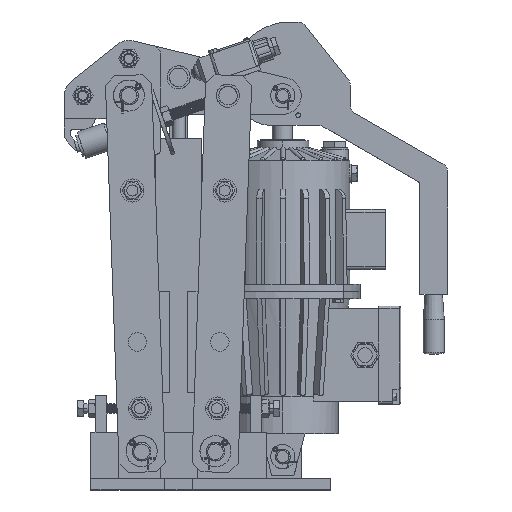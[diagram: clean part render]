
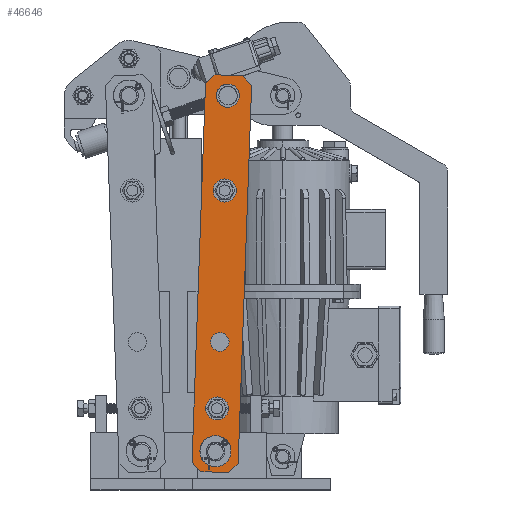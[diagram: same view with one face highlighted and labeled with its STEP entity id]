
A CAD part, top view. The second image highlights one B-rep face of the part: STEP entity #46646.
In plain terms, the highlighted planar face has unit normal (0, 0, 1).
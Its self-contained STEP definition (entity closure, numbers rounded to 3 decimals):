
#43397=DIRECTION('',(-0.732,-0.681,0.));
#43398=VECTOR('',#43397,14.142);
#43399=CARTESIAN_POINT('',(539.817,1093.504,74.));
#43400=LINE('',#43399,#43398);
#43404=DIRECTION('',(-0.999,0.036,0.));
#43405=VECTOR('',#43404,30.);
#43406=CARTESIAN_POINT('',(569.798,1092.435,74.));
#43407=LINE('',#43406,#43405);
#43411=DIRECTION('',(-0.681,0.732,0.));
#43412=VECTOR('',#43411,14.142);
#43413=CARTESIAN_POINT('',(579.435,1082.086,74.));
#43414=LINE('',#43413,#43412);
#43418=DIRECTION('',(0.036,0.999,0.));
#43419=VECTOR('',#43418,410.245);
#43420=CARTESIAN_POINT('',(564.824,672.101,74.));
#43421=LINE('',#43420,#43419);
#43425=DIRECTION('',(0.732,0.681,0.));
#43426=VECTOR('',#43425,14.142);
#43427=CARTESIAN_POINT('',(554.475,662.463,74.));
#43428=LINE('',#43427,#43426);
#43432=DIRECTION('',(0.999,-0.036,0.));
#43433=VECTOR('',#43432,30.);
#43434=CARTESIAN_POINT('',(524.494,663.532,74.));
#43435=LINE('',#43434,#43433);
#43439=DIRECTION('',(0.681,-0.732,0.));
#43440=VECTOR('',#43439,14.142);
#43441=CARTESIAN_POINT('',(514.856,673.882,74.));
#43442=LINE('',#43441,#43440);
#43446=DIRECTION('',(-0.036,-0.999,0.));
#43447=VECTOR('',#43446,410.245);
#43448=CARTESIAN_POINT('',(529.467,1083.866,74.));
#43449=LINE('',#43448,#43447);
#43453=CARTESIAN_POINT('',(553.765,1070.892,74.));
#43454=DIRECTION('',(0.,0.,-1.));
#43455=DIRECTION('',(1.,0.,0.));
#43456=AXIS2_PLACEMENT_3D('',#43453,#43454,#43455);
#43461=CARTESIAN_POINT('',(553.765,1070.892,74.));
#43462=DIRECTION('',(0.,0.,-1.));
#43463=DIRECTION('',(-1.,0.,0.));
#43464=AXIS2_PLACEMENT_3D('',#43461,#43462,#43463);
#43469=CARTESIAN_POINT('',(540.268,684.984,74.));
#43470=DIRECTION('',(0.,0.,-1.));
#43471=DIRECTION('',(0.999,0.042,0.));
#43472=AXIS2_PLACEMENT_3D('',#43469,#43470,#43471);
#43477=CARTESIAN_POINT('',(540.268,684.984,74.));
#43478=DIRECTION('',(0.,0.,-1.));
#43479=DIRECTION('',(-0.999,-0.042,0.));
#43480=AXIS2_PLACEMENT_3D('',#43477,#43478,#43479);
#43485=CARTESIAN_POINT('',(541.942,731.954,74.));
#43486=DIRECTION('',(0.,0.,-1.));
#43487=DIRECTION('',(1.,0.,0.));
#43488=AXIS2_PLACEMENT_3D('',#43485,#43486,#43487);
#43493=CARTESIAN_POINT('',(541.942,731.954,74.));
#43494=DIRECTION('',(0.,0.,-1.));
#43495=DIRECTION('',(-1.,0.,0.));
#43496=AXIS2_PLACEMENT_3D('',#43493,#43494,#43495);
#43501=CARTESIAN_POINT('',(545.013,803.984,74.));
#43502=DIRECTION('',(0.,0.,-1.));
#43503=DIRECTION('',(1.,0.,0.));
#43504=AXIS2_PLACEMENT_3D('',#43501,#43502,#43503);
#43509=CARTESIAN_POINT('',(545.013,803.984,74.));
#43510=DIRECTION('',(0.,0.,-1.));
#43511=DIRECTION('',(-1.,0.,0.));
#43512=AXIS2_PLACEMENT_3D('',#43509,#43510,#43511);
#43517=CARTESIAN_POINT('',(550.358,968.116,74.));
#43518=DIRECTION('',(0.,0.,-1.));
#43519=DIRECTION('',(1.,0.,0.));
#43520=AXIS2_PLACEMENT_3D('',#43517,#43518,#43519);
#43525=CARTESIAN_POINT('',(550.358,968.116,74.));
#43526=DIRECTION('',(0.,0.,-1.));
#43527=DIRECTION('',(-1.,0.,0.));
#43528=AXIS2_PLACEMENT_3D('',#43525,#43526,#43527);
#45708=CARTESIAN_POINT('',(579.435,1082.086,74.));
#45709=CARTESIAN_POINT('',(569.798,1092.435,74.));
#45710=VERTEX_POINT('',#45708);
#45711=VERTEX_POINT('',#45709);
#45712=CARTESIAN_POINT('',(539.817,1093.504,74.));
#45713=CARTESIAN_POINT('',(529.467,1083.866,74.));
#45714=VERTEX_POINT('',#45712);
#45715=VERTEX_POINT('',#45713);
#45716=CARTESIAN_POINT('',(514.856,673.882,74.));
#45717=VERTEX_POINT('',#45716);
#45718=CARTESIAN_POINT('',(524.494,663.532,74.));
#45719=VERTEX_POINT('',#45718);
#45720=CARTESIAN_POINT('',(554.475,662.463,74.));
#45721=VERTEX_POINT('',#45720);
#45722=CARTESIAN_POINT('',(564.824,672.101,74.));
#45723=VERTEX_POINT('',#45722);
#45724=CARTESIAN_POINT('',(566.265,1070.892,74.));
#45725=CARTESIAN_POINT('',(541.265,1070.892,74.));
#45726=VERTEX_POINT('',#45724);
#45727=VERTEX_POINT('',#45725);
#45728=CARTESIAN_POINT('',(552.757,685.507,74.));
#45729=CARTESIAN_POINT('',(527.779,684.46,74.));
#45730=VERTEX_POINT('',#45728);
#45731=VERTEX_POINT('',#45729);
#45732=CARTESIAN_POINT('',(554.442,731.954,74.));
#45733=CARTESIAN_POINT('',(529.442,731.954,74.));
#45734=VERTEX_POINT('',#45732);
#45735=VERTEX_POINT('',#45733);
#45736=CARTESIAN_POINT('',(555.013,803.984,74.));
#45737=CARTESIAN_POINT('',(535.013,803.984,74.));
#45738=VERTEX_POINT('',#45736);
#45739=VERTEX_POINT('',#45737);
#45740=CARTESIAN_POINT('',(562.858,968.116,74.));
#45741=CARTESIAN_POINT('',(537.858,968.116,74.));
#45742=VERTEX_POINT('',#45740);
#45743=VERTEX_POINT('',#45741);
#46594=CARTESIAN_POINT('',(547.146,877.984,74.));
#46595=DIRECTION('',(0.,0.,1.));
#46596=DIRECTION('',(-1.,0.,0.));
#46597=AXIS2_PLACEMENT_3D('',#46594,#46595,#46596);
#46598=PLANE('',#46597);
#46600=ORIENTED_EDGE('',*,*,#46599,.F.);
#46602=ORIENTED_EDGE('',*,*,#46601,.F.);
#46603=ORIENTED_EDGE('',*,*,#46584,.F.);
#46605=ORIENTED_EDGE('',*,*,#46604,.F.);
#46607=ORIENTED_EDGE('',*,*,#46606,.F.);
#46609=ORIENTED_EDGE('',*,*,#46608,.F.);
#46611=ORIENTED_EDGE('',*,*,#46610,.F.);
#46613=ORIENTED_EDGE('',*,*,#46612,.F.);
#46614=EDGE_LOOP('',(#46600,#46602,#46603,#46605,#46607,#46609,#46611,#46613));
#46615=FACE_OUTER_BOUND('',#46614,.F.);
#46617=ORIENTED_EDGE('',*,*,#46616,.F.);
#46619=ORIENTED_EDGE('',*,*,#46618,.F.);
#46620=EDGE_LOOP('',(#46617,#46619));
#46621=FACE_BOUND('',#46620,.F.);
#46623=ORIENTED_EDGE('',*,*,#46622,.F.);
#46625=ORIENTED_EDGE('',*,*,#46624,.F.);
#46626=EDGE_LOOP('',(#46623,#46625));
#46627=FACE_BOUND('',#46626,.F.);
#46629=ORIENTED_EDGE('',*,*,#46628,.F.);
#46631=ORIENTED_EDGE('',*,*,#46630,.F.);
#46632=EDGE_LOOP('',(#46629,#46631));
#46633=FACE_BOUND('',#46632,.F.);
#46635=ORIENTED_EDGE('',*,*,#46634,.F.);
#46637=ORIENTED_EDGE('',*,*,#46636,.F.);
#46638=EDGE_LOOP('',(#46635,#46637));
#46639=FACE_BOUND('',#46638,.F.);
#46641=ORIENTED_EDGE('',*,*,#46640,.F.);
#46643=ORIENTED_EDGE('',*,*,#46642,.F.);
#46644=EDGE_LOOP('',(#46641,#46643));
#46645=FACE_BOUND('',#46644,.F.);
#46646=ADVANCED_FACE('',(#46615,#46621,#46627,#46633,#46639,#46645),#46598,.T.);
#43457=CIRCLE('',#43456,12.5);
#43465=CIRCLE('',#43464,12.5);
#43473=CIRCLE('',#43472,12.5);
#43481=CIRCLE('',#43480,12.5);
#43489=CIRCLE('',#43488,12.5);
#43497=CIRCLE('',#43496,12.5);
#43505=CIRCLE('',#43504,10.);
#43513=CIRCLE('',#43512,10.);
#43521=CIRCLE('',#43520,12.5);
#43529=CIRCLE('',#43528,12.5);
#46584=EDGE_CURVE('',#45710,#45711,#43414,.T.);
#46599=EDGE_CURVE('',#45714,#45715,#43400,.T.);
#46601=EDGE_CURVE('',#45711,#45714,#43407,.T.);
#46604=EDGE_CURVE('',#45723,#45710,#43421,.T.);
#46606=EDGE_CURVE('',#45721,#45723,#43428,.T.);
#46608=EDGE_CURVE('',#45719,#45721,#43435,.T.);
#46610=EDGE_CURVE('',#45717,#45719,#43442,.T.);
#46612=EDGE_CURVE('',#45715,#45717,#43449,.T.);
#46616=EDGE_CURVE('',#45726,#45727,#43457,.T.);
#46618=EDGE_CURVE('',#45727,#45726,#43465,.T.);
#46622=EDGE_CURVE('',#45730,#45731,#43473,.T.);
#46624=EDGE_CURVE('',#45731,#45730,#43481,.T.);
#46628=EDGE_CURVE('',#45734,#45735,#43489,.T.);
#46630=EDGE_CURVE('',#45735,#45734,#43497,.T.);
#46634=EDGE_CURVE('',#45738,#45739,#43505,.T.);
#46636=EDGE_CURVE('',#45739,#45738,#43513,.T.);
#46640=EDGE_CURVE('',#45742,#45743,#43521,.T.);
#46642=EDGE_CURVE('',#45743,#45742,#43529,.T.);
